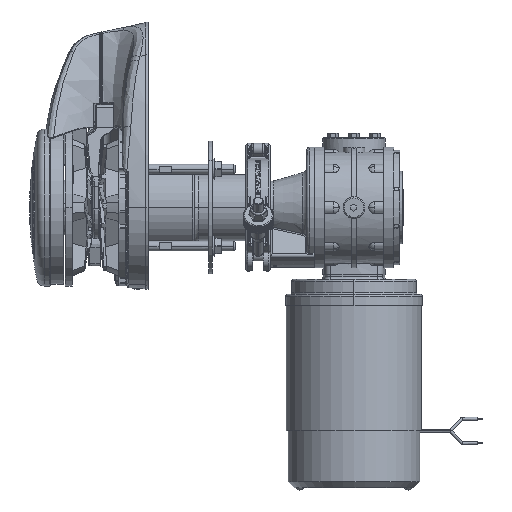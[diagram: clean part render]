
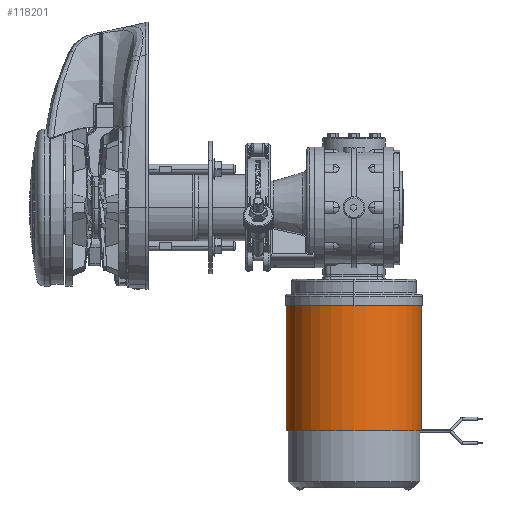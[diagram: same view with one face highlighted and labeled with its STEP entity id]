
A CAD part, left-side view. The second image highlights one B-rep face of the part: STEP entity #118201.
In plain terms, the highlighted cylindrical face has radius 56 mm (diameter 112 mm), a partial arc.
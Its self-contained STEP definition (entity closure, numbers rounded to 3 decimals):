
#117138=DIRECTION('',(0.,0.,1.));
#117139=VECTOR('',#117138,104.);
#117140=CARTESIAN_POINT('',(40.,-116.5,-185.));
#117141=LINE('',#117140,#117139);
#117142=CARTESIAN_POINT('',(40.,-172.5,-81.));
#117143=DIRECTION('',(0.,0.,1.));
#117144=DIRECTION('',(0.,1.,0.));
#117145=AXIS2_PLACEMENT_3D('',#117142,#117143,#117144);
#117147=DIRECTION('',(0.,0.,1.));
#117148=VECTOR('',#117147,104.);
#117149=CARTESIAN_POINT('',(40.,-228.5,-185.));
#117150=LINE('',#117149,#117148);
#117151=CARTESIAN_POINT('',(40.,-172.5,-185.));
#117152=DIRECTION('',(0.,0.,1.));
#117153=DIRECTION('',(0.,1.,0.));
#117154=AXIS2_PLACEMENT_3D('',#117151,#117152,#117153);
#117867=CARTESIAN_POINT('',(40.,-116.5,-185.));
#117868=CARTESIAN_POINT('',(40.,-116.5,-81.));
#117869=VERTEX_POINT('',#117867);
#117870=VERTEX_POINT('',#117868);
#117871=CARTESIAN_POINT('',(40.,-228.5,-185.));
#117872=CARTESIAN_POINT('',(40.,-228.5,-81.));
#117873=VERTEX_POINT('',#117871);
#117874=VERTEX_POINT('',#117872);
#118189=CARTESIAN_POINT('',(40.,-172.5,-29.403));
#118190=DIRECTION('',(0.,0.,-1.));
#118191=DIRECTION('',(0.,-1.,0.));
#118192=AXIS2_PLACEMENT_3D('',#118189,#118190,#118191);
#118193=CYLINDRICAL_SURFACE('',#118192,56.);
#118194=ORIENTED_EDGE('',*,*,#118152,.T.);
#118196=ORIENTED_EDGE('',*,*,#118195,.T.);
#118197=ORIENTED_EDGE('',*,*,#118148,.F.);
#118198=ORIENTED_EDGE('',*,*,#118124,.F.);
#118199=EDGE_LOOP('',(#118194,#118196,#118197,#118198));
#118200=FACE_OUTER_BOUND('',#118199,.F.);
#118201=ADVANCED_FACE('',(#118200),#118193,.T.);
#117146=CIRCLE('',#117145,56.);
#117155=CIRCLE('',#117154,56.);
#118124=EDGE_CURVE('',#117869,#117873,#117155,.T.);
#118148=EDGE_CURVE('',#117873,#117874,#117150,.T.);
#118152=EDGE_CURVE('',#117869,#117870,#117141,.T.);
#118195=EDGE_CURVE('',#117870,#117874,#117146,.T.);
